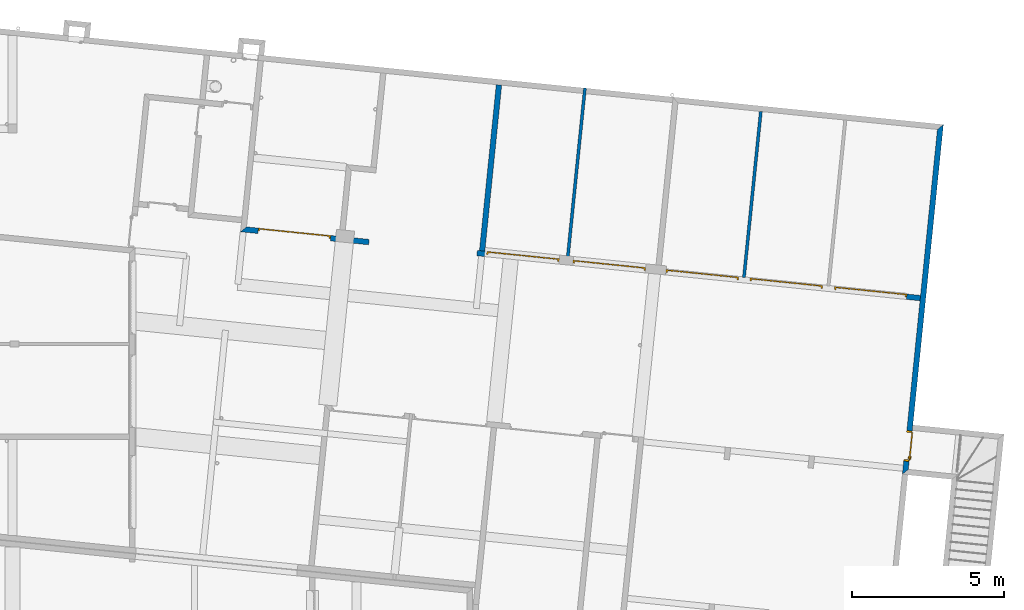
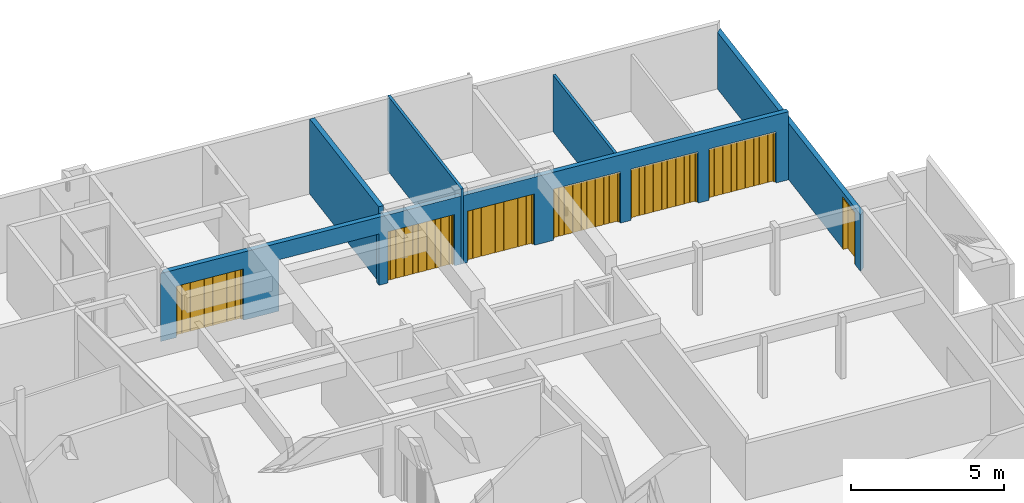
# One storey, part 18 of 41: 7 doors, 5 walls, 8 openings.
"""IFC2X3 building model written with IfcOpenShell, lengths in millimetres."""

from ifc_helpers import new_model, entity, si_unit, converted_unit, derived_unit, money_unit, direction, frame, origin_with_axes, origin_2d_with_axis, place, context, subcontext, project, spatial, polyline, rectangle, outline, extrude, faceted_brep, source, transform, mapped, material, layer, layer_set, layer_usage, type_object, element, fill, save


model = new_model("IFC2X3")

# Units and contexts
model_context = context("Model", 3, precision=0.01, world=origin_with_axes(), true_north=direction((0.0, 1.0)))
body_context = subcontext(model_context, "Body", "Model", "MODEL_VIEW")
ifc_project = project(units=[si_unit("LENGTHUNIT", "METRE", prefix="MILLI"), si_unit("AREAUNIT", "SQUARE_METRE"), si_unit("VOLUMEUNIT", "CUBIC_METRE"), converted_unit("PLANEANGLEUNIT", "DEGREE", entity("IfcPlaneAngleMeasure", 0.0174532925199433), si_unit("PLANEANGLEUNIT", "RADIAN"), dimensions=[0, 0, 0, 0, 0, 0, 0]), money_unit("USD"), converted_unit("TIMEUNIT", "Year", entity("IfcTimeMeasure", 31557600.0), si_unit("TIMEUNIT", "SECOND"), dimensions=[0, 0, 1, 0, 0, 0, 0]), si_unit("MASSUNIT", "GRAM", prefix="KILO"), si_unit("THERMODYNAMICTEMPERATUREUNIT", "DEGREE_CELSIUS"), si_unit("LUMINOUSINTENSITYUNIT", "LUMEN"), si_unit("ENERGYUNIT", "JOULE", prefix="MEGA"), derived_unit("THERMALCONDUCTANCEUNIT", [(si_unit("POWERUNIT", "WATT"), 1), (si_unit("LENGTHUNIT", "METRE"), -1), (si_unit("THERMODYNAMICTEMPERATUREUNIT", "KELVIN"), -1)]), derived_unit("SPECIFICHEATCAPACITYUNIT", [(si_unit("ENERGYUNIT", "JOULE"), 1), (si_unit("MASSUNIT", "GRAM", prefix="KILO"), -1), (si_unit("THERMODYNAMICTEMPERATUREUNIT", "KELVIN"), -1)]), derived_unit("MASSDENSITYUNIT", [(si_unit("MASSUNIT", "GRAM", prefix="KILO"), 1), (si_unit("VOLUMEUNIT", "CUBIC_METRE"), -1)])], contexts=[model_context])

# Site, building, storey
site_placement = place(None, origin_with_axes())
site = spatial("IfcSite", under=ifc_project, at=site_placement, Name="Site", CompositionType="ELEMENT")
building_placement = place(site_placement, origin_with_axes())
building = spatial("IfcBuilding", under=site, at=building_placement, Name="Bâtiment", CompositionType="ELEMENT")
storey_placement = place(building_placement, origin_with_axes())
storey = spatial("IfcBuildingStorey", under=building, at=storey_placement, Name="sousol", CompositionType="ELEMENT", Elevation=0.0)

# Walls
ifc_material_1 = material(Name="Brique 1 268964100")
ifc_layer_1 = layer(ifc_material_1, 100.0, ventilated="UNKNOWN")
ifc_layer_set_1 = layer_set([ifc_layer_1], Name="Cloison 100 gaine")
ifc_layer_usage_1 = layer_usage(ifc_layer_set_1, "AXIS2", "NEGATIVE", 0.0)
wall_type_1 = type_object("IfcWallType", Name="Cloison 100 gaine 100", PredefinedType="NOTDEFINED")
wall_1_placement = place(storey_placement, frame((2236456.168135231, -611747.5628870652, 0.0), z_axis=(0.0, 0.0, 1.0), x_axis=(0.1011032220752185, 0.9948759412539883, 0.0)))
element("IfcWallStandardCase", 1, at=wall_1_placement, inside=storey, type_object=wall_type_1, material=ifc_layer_usage_1, Name="Mur-133", context=body_context, shape_type="SweptSolid", body=[
    extrude(outline(polyline([(0.0, -100.0000000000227), (5859.999999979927, -100.0000000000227), (5859.999999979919, 0.0), (0.0, 0.0), (0.0, -100.0000000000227)])), origin_with_axes(), (0.0, 0.0, 1.0), 3000.0),
])
ifc_layer_usage_2 = layer_usage(ifc_layer_set_1, "AXIS2", "NEGATIVE", 0.0)
wall_2_placement = place(storey_placement, frame((2242291.886728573, -612159.7250478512, 0.0), z_axis=(0.0, 0.0, 1.0), x_axis=(0.1011032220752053, 0.9948759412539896, 0.0)))
element("IfcWallStandardCase", 2, at=wall_2_placement, inside=storey, type_object=wall_type_1, material=ifc_layer_usage_2, Name="Mur-133", context=body_context, shape_type="SweptSolid", body=[
    extrude(outline(polyline([(0.0, -100.0000000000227), (5499.999999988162, -100.0000000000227), (5499.999999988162, 0.0), (0.0, 0.0), (0.0, -100.0000000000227)])), origin_with_axes(), (0.0, 0.0, 1.0), 2259.999999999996),
])

# Wall, opening, door
ifc_material_2 = material(Name="Parpaing 314940890")
ifc_layer_2 = layer(ifc_material_2, 180.0, ventilated="UNKNOWN")
ifc_layer_set_2 = layer_set([ifc_layer_2], Name="Beton  18 0170347028")
ifc_layer_usage_3 = layer_usage(ifc_layer_set_2, "AXIS2", "NEGATIVE", 0.0)
wall_type_2 = type_object("IfcWallType", Name="Beton  18 0170347028 180", PredefinedType="NOTDEFINED")
wall_3_placement = place(storey_placement, frame((2247583.310815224, -618476.6702071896, 0.0), z_axis=(0.0, 0.0, 1.0), x_axis=(0.101103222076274, 0.994875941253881, 0.0)))
wall_3 = element("IfcWallStandardCase", 3, at=wall_3_placement, inside=storey, type_object=wall_type_2, material=ifc_layer_usage_3, Name="Mur-132", context=body_context, shape_type="SweptSolid", body=[
    extrude(outline(polyline([(0.03947672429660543, -180.0000000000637), (11429.59673671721, -180.0000000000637), (11249.59673671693, -1.13686837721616e-10), (-180.0000043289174, 0.0), (0.03947672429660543, -180.0000000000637)])), origin_with_axes(), (0.0, 0.0, 1.0), 2260.00000000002),
])
opening_1_placement = place(wall_3_placement, frame((765.4251590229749, 0.0, 0.0), z_axis=(0.0, 0.0, 1.0), x_axis=(1.0, 0.0, 0.0)))
opening_1 = element("IfcOpeningElement", 4, at=opening_1_placement, cuts=wall_3, Name="Por-298", context=body_context, shape_type="SweptSolid", body=[
    extrude(rectangle(XDim=1010.00001192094, YDim=2080.0, at=origin_2d_with_axis()), frame((5.960473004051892e-06, 180.0000000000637, 1040.0), z_axis=(0.0, 1.0, 0.0), x_axis=(1.0, 0.0, 0.0)), (0.0, 0.0, -1.0), 360.0),
])
door_style_1 = type_object("IfcDoorStyle", Name="Porte_1v", ConstructionType="NOTDEFINED", OperationType="NOTDEFINED", ParameterTakesPrecedence=False, Sizeable=False)
shared_shape_1 = source(origin_with_axes(), body_context, "Body", "Brep", [
    faceted_brep([(-505.0, 0.0, 0.0), (-505.0, 0.0, 2080.0), (505.0, 0.0, 2080.0), (505.0, 0.0, 0.0), (465.0, 0.0, 0.0), (464.9999999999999, 0.0, 2040.0), (-464.9999999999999, 0.0, 2040.0), (-465.0, 0.0, 0.0), (-505.0, -180.0, 0.0), (-505.0, -180.0, 2080.0), (505.0, -180.0, 2080.0), (505.0, -180.0, 0.0), (450.0, -180.0, 0.0), (450.0, -15.0, 0.0), (465.0, -15.0, 0.0), (464.9999999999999, -15.0, 2040.0), (-464.9999999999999, -15.0, 2040.0), (-465.0, -15.0, 0.0), (-450.0, -15.0, 0.0), (-450.0, -180.0, 0.0), (-450.0, -180.0, 2025.0), (450.0, -180.0, 2025.0), (450.0, -15.0, 2025.0), (-450.0, -15.0, 2025.0)], [[[0, 1, 2, 3, 4, 5, 6, 7]], [[8, 9, 1, 0]], [[9, 10, 2, 1]], [[10, 11, 3, 2]], [[3, 11, 12, 13, 14, 4]], [[5, 4, 14, 15]], [[6, 5, 15, 16]], [[7, 6, 16, 17]], [[0, 7, 17, 18, 19, 8]], [[19, 20, 21, 12, 11, 10, 9, 8]], [[22, 13, 12, 21]], [[17, 16, 15, 14, 13, 22, 23, 18]], [[18, 23, 20, 19]], [[23, 22, 21, 20]]]),
    faceted_brep([(400.0, -15.0, 900.0), (400.0, -15.0, 1100.0), (440.0, -15.0, 1100.0), (440.0, -15.0, 900.0), (400.0, -25.0, 900.0), (400.0, -25.0, 1100.0), (440.0, -25.0, 1100.0), (440.0, -25.0, 900.0)], [[[0, 1, 2, 3]], [[0, 4, 5, 1]], [[1, 5, 6, 2]], [[2, 6, 7, 3]], [[3, 7, 4, 0]], [[7, 6, 5, 4]]]),
    faceted_brep([(329.9999999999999, -25.0, 1000.0), (329.9999999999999, -25.0, 1020.0), (430.0, -25.0, 1020.0), (430.0, -25.0, 1000.0), (329.9999999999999, -45.0, 1000.0), (329.9999999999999, -45.0, 1020.0), (430.0, -45.0, 1020.0), (430.0, -45.0, 1000.0)], [[[0, 1, 2, 3]], [[0, 4, 5, 1]], [[1, 5, 6, 2]], [[2, 6, 7, 3]], [[3, 7, 4, 0]], [[7, 6, 5, 4]]]),
    faceted_brep([(400.0, 35.0, 900.0), (400.0, 35.0, 1100.0), (440.0, 35.0, 1100.0), (440.0, 35.0, 900.0), (400.0, 25.0, 900.0), (400.0, 25.0, 1100.0), (440.0, 25.0, 1100.0), (440.0, 25.0, 900.0)], [[[0, 1, 2, 3]], [[0, 4, 5, 1]], [[1, 5, 6, 2]], [[2, 6, 7, 3]], [[3, 7, 4, 0]], [[7, 6, 5, 4]]]),
    faceted_brep([(329.9999999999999, 55.00000000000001, 1000.0), (329.9999999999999, 55.00000000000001, 1020.0), (430.0, 55.00000000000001, 1020.0), (430.0, 55.00000000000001, 1000.0), (329.9999999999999, 35.0, 1000.0), (329.9999999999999, 35.0, 1020.0), (430.0, 35.0, 1020.0), (430.0, 35.0, 1000.0)], [[[0, 1, 2, 3]], [[0, 4, 5, 1]], [[1, 5, 6, 2]], [[2, 6, 7, 3]], [[3, 7, 4, 0]], [[7, 6, 5, 4]]]),
    faceted_brep([(465.0, 25.0, 0.0), (465.0, -15.0, 0.0), (-465.0, -15.0, 0.0), (-465.0, 25.0, 0.0), (465.0, 25.0, 2040.0), (465.0, -15.0, 2040.0), (-465.0, -15.0, 2040.0), (-465.0, 25.0, 2040.0)], [[[0, 1, 2, 3]], [[4, 5, 1, 0]], [[1, 5, 6, 2]], [[3, 2, 6, 7]], [[0, 3, 7, 4]], [[7, 6, 5, 4]]]),
])
door_1_placement = place(opening_1_placement, frame((465.0000000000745, -1.13686837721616e-10, 0.0), z_axis=(0.0, 0.0, 1.0), x_axis=(-1.0, 0.0, 0.0)))
door_1 = element("IfcDoor", 5, at=door_1_placement, inside=storey, type_object=door_style_1, Name="Por-298", OverallHeight=2040.0, OverallWidth=930.0, context=body_context, shape_type="MappedRepresentation", body=[
    mapped(shared_shape_1, transform((465.0000000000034, 179.99999999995, 0.0))),
])
fill(opening_1, door_1)

# Wall
ifc_layer_usage_4 = layer_usage(ifc_layer_set_2, "AXIS2", "POSITIVE", 0.0)
wall_4_placement = place(storey_placement, frame((2233780.072453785, -611475.6479477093, 0.0), z_axis=(0.0, 0.0, 1.0), x_axis=(0.1008361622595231, 0.9949030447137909, 0.0)))
element("IfcWallStandardCase", 6, at=wall_4_placement, inside=storey, type_object=wall_type_2, material=ifc_layer_usage_4, Name="Mur-133", context=body_context, shape_type="SweptSolid", body=[
    extrude(outline(polyline([(180.0000064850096, 0.0), (5680.000204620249, 0.0), (5680.048522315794, 179.99999999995), (180.0483241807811, 179.99999999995), (180.0000064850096, 0.0)])), origin_with_axes(), (0.0, 0.0, 1.0), 3000.0),
])

# Wall, openings, doors
ifc_layer_usage_5 = layer_usage(ifc_layer_set_2, "AXIS2", "NEGATIVE", 0.0)
wall_5_placement = place(storey_placement, frame((2248146.414990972, -612935.6124113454, 0.0), z_axis=(0.0, 0.0, 1.0), x_axis=(-0.9948759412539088, 0.1011032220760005, 0.0)))
wall_5 = element("IfcWallStandardCase", 7, at=wall_5_placement, inside=storey, type_object=wall_type_2, material=ifc_layer_usage_5, Name="Mur-132", context=body_context, shape_type="SweptSolid", body=[
    extrude(outline(polyline([(0.0, -180.0000000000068), (22340.71393162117, -179.9999999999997), (22520.71394197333, 0.0), (0.0, 0.0), (0.0, -180.0000000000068)])), origin_with_axes(), (0.0, 0.0, 1.0), 2719.999999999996),
])
opening_2_placement = place(wall_5_placement, frame((13172.1847592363, 0.0, 0.0), z_axis=(0.0, 0.0, 1.0), x_axis=(1.0, 0.0, 0.0)))
opening_2 = element("IfcOpeningElement", 8, at=opening_2_placement, cuts=wall_5, Name="Por-296", context=body_context, shape_type="SweptSolid", body=[
    extrude(rectangle(XDim=2399.999999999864, YDim=2050.0, at=origin_2d_with_axis()), frame((-1.13686837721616e-10, -179.9999999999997, 1025.0), z_axis=(0.0, 1.0, 0.0), x_axis=(1.0, 0.0, 0.0)), (0.0, 0.0, -1.0), 180.0),
    extrude(rectangle(XDim=2399.999999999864, YDim=2050.0, at=origin_2d_with_axis()), frame((-1.13686837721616e-10, -179.9999999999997, 1025.0), z_axis=(0.0, -1.0, 0.0), x_axis=(1.0, 0.0, 0.0)), (0.0, 0.0, -1.0), 180.0),
])
opening_3_placement = place(wall_5_placement, frame((10311.26635716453, 0.0, 0.0), z_axis=(0.0, 0.0, 1.0), x_axis=(1.0, 0.0, 0.0)))
opening_3 = element("IfcOpeningElement", 9, at=opening_3_placement, cuts=wall_5, Name="Por-296", context=body_context, shape_type="SweptSolid", body=[
    extrude(rectangle(XDim=2399.999999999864, YDim=2050.0, at=origin_2d_with_axis()), frame((0.0, -180.0000000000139, 1025.0), z_axis=(0.0, 1.0, 0.0), x_axis=(1.0, 0.0, 0.0)), (0.0, 0.0, -1.0), 180.0),
    extrude(rectangle(XDim=2399.999999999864, YDim=2050.0, at=origin_2d_with_axis()), frame((0.0, -180.0000000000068, 1025.0), z_axis=(0.0, -1.0, 0.0), x_axis=(1.0, 0.0, 0.0)), (0.0, 0.0, -1.0), 180.0),
])
opening_4_placement = place(wall_5_placement, frame((1650.701355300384, 0.0, 0.0), z_axis=(0.0, 0.0, 1.0), x_axis=(1.0, 0.0, 0.0)))
opening_4 = element("IfcOpeningElement", 10, at=opening_4_placement, cuts=wall_5, Name="Por-296", context=body_context, shape_type="SweptSolid", body=[
    extrude(rectangle(XDim=2399.999999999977, YDim=2050.0, at=origin_2d_with_axis()), frame((0.0, -180.0000000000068, 1025.0), z_axis=(0.0, 1.0, 0.0), x_axis=(1.0, 0.0, 0.0)), (0.0, 0.0, -1.0), 180.0),
    extrude(rectangle(XDim=2399.999999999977, YDim=2050.0, at=origin_2d_with_axis()), frame((0.0, -180.0000000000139, 1025.0), z_axis=(0.0, -1.0, 0.0), x_axis=(1.0, 0.0, 0.0)), (0.0, 0.0, -1.0), 180.0),
])
opening_5_placement = place(wall_5_placement, frame((4445.095088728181, 0.0, 0.0), z_axis=(0.0, 0.0, 1.0), x_axis=(1.0, 0.0, 0.0)))
opening_5 = element("IfcOpeningElement", 11, at=opening_5_placement, cuts=wall_5, Name="Por-296", context=body_context, shape_type="SweptSolid", body=[
    extrude(rectangle(XDim=2399.999999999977, YDim=2050.0, at=origin_2d_with_axis()), frame((0.0, -180.0000000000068, 1025.0), z_axis=(0.0, 1.0, 0.0), x_axis=(1.0, 0.0, 0.0)), (0.0, 0.0, -1.0), 180.0),
    extrude(rectangle(XDim=2399.999999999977, YDim=2050.0, at=origin_2d_with_axis()), frame((0.0, -180.0000000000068, 1025.0), z_axis=(0.0, -1.0, 0.0), x_axis=(1.0, 0.0, 0.0)), (0.0, 0.0, -1.0), 180.0),
])
opening_6_placement = place(wall_5_placement, frame((20746.29430240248, 0.0, 0.0), z_axis=(0.0, 0.0, 1.0), x_axis=(1.0, 0.0, 0.0)))
opening_6 = element("IfcOpeningElement", 12, at=opening_6_placement, cuts=wall_5, Name="Por-296", context=body_context, shape_type="SweptSolid", body=[
    extrude(rectangle(XDim=2399.999999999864, YDim=2050.0, at=origin_2d_with_axis()), frame((-1.13686837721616e-10, -180.0000000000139, 1025.0), z_axis=(0.0, 1.0, 0.0), x_axis=(1.0, 0.0, 0.0)), (0.0, 0.0, -1.0), 180.0),
    extrude(rectangle(XDim=2399.999999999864, YDim=2050.0, at=origin_2d_with_axis()), frame((-1.13686837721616e-10, -180.0000000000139, 1025.0), z_axis=(0.0, -1.0, 0.0), x_axis=(1.0, 0.0, 0.0)), (0.0, 0.0, -1.0), 180.0),
])
opening_7_placement = place(wall_5_placement, frame((16483.23429893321, 0.0, 0.0), z_axis=(0.0, 0.0, 1.0), x_axis=(1.0, 0.0, 0.0)))
element("IfcOpeningElement", 13, at=opening_7_placement, cuts=wall_5, Name="Por-296", context=body_context, shape_type="SweptSolid", body=[
    extrude(rectangle(XDim=3586.301945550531, YDim=2050.0, at=origin_2d_with_axis()), frame((-1.13686837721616e-10, -180.000000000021, 1025.0), z_axis=(0.0, 1.0, 0.0), x_axis=(1.0, 0.0, 0.0)), (0.0, 0.0, -1.0), 180.0),
    extrude(rectangle(XDim=3586.301945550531, YDim=2050.0, at=origin_2d_with_axis()), frame((-1.13686837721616e-10, -180.0000000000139, 1025.0), z_axis=(0.0, -1.0, 0.0), x_axis=(1.0, 0.0, 0.0)), (0.0, 0.0, -1.0), 180.0),
])
opening_8_placement = place(wall_5_placement, frame((7230.825332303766, 0.0, 0.0), z_axis=(0.0, 0.0, 1.0), x_axis=(1.0, 0.0, 0.0)))
opening_8 = element("IfcOpeningElement", 14, at=opening_8_placement, cuts=wall_5, Name="Por-296", context=body_context, shape_type="SweptSolid", body=[
    extrude(rectangle(XDim=2399.999999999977, YDim=2050.0, at=origin_2d_with_axis()), frame((0.0, -180.0000000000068, 1025.0), z_axis=(0.0, 1.0, 0.0), x_axis=(1.0, 0.0, 0.0)), (0.0, 0.0, -1.0), 180.0),
    extrude(rectangle(XDim=2399.999999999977, YDim=2050.0, at=origin_2d_with_axis()), frame((0.0, -180.0000000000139, 1025.0), z_axis=(0.0, -1.0, 0.0), x_axis=(1.0, 0.0, 0.0)), (0.0, 0.0, -1.0), 180.0),
])
door_style_2 = type_object("IfcDoorStyle", Name="P_garage 1", ConstructionType="NOTDEFINED", OperationType="NOTDEFINED", ParameterTakesPrecedence=False, Sizeable=False)
shared_shape_2 = source(origin_with_axes(), body_context, "Body", "Brep", [
    faceted_brep([(-1200.0, 0.0, 0.0), (-1150.0, 0.0, 0.0), (-1150.0, -100.0, 0.0), (-1200.0, -100.0, 0.0), (-1200.0, 0.0, 2050.0), (1200.0, 0.0, 2050.0), (1200.0, 0.0, 0.0), (1150.0, 0.0, 0.0), (1150.0, 0.0, 2000.0), (-1150.0, 0.0, 2000.0), (-1150.0, -100.0, 2000.0), (1150.0, -100.0, 2000.0), (1150.0, -100.0, 0.0), (1200.0, -100.0, 0.0), (1200.0, -100.0, 2050.0), (-1200.0, -100.0, 2050.0)], [[[0, 1, 2, 3]], [[0, 4, 5, 6, 7, 8, 9, 1]], [[1, 9, 10, 2]], [[3, 2, 10, 11, 12, 13, 14, 15]], [[4, 0, 3, 15]], [[5, 4, 15, 14]], [[6, 5, 14, 13]], [[7, 6, 13, 12]], [[8, 7, 12, 11]], [[9, 8, 11, 10]]]),
    faceted_brep([(-1069.130434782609, -40.0, 0.0), (-1069.130434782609, -26.66666666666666, 0.0), (-1069.130434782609, -26.66666666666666, 2000.0), (-1069.130434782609, -40.0, 2000.0), (-1150.0, -40.0, 0.0), (-1150.0, -26.66666666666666, 0.0), (-1150.0, -26.66666666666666, 2000.0), (-1150.0, -40.0, 2000.0)], [[[0, 1, 2, 3]], [[4, 5, 1, 0]], [[1, 5, 6, 2]], [[3, 2, 6, 7]], [[0, 3, 7, 4]], [[7, 6, 5, 4]]]),
    faceted_brep([(-968.2608695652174, -40.0, 0.0), (-968.2608695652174, -26.66666666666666, 0.0), (-968.2608695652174, -26.66666666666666, 2000.0), (-968.2608695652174, -40.0, 2000.0), (-1049.130434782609, -40.0, 0.0), (-1049.130434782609, -26.66666666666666, 0.0), (-1049.130434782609, -26.66666666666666, 2000.0), (-1049.130434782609, -40.0, 2000.0)], [[[0, 1, 2, 3]], [[4, 5, 1, 0]], [[1, 5, 6, 2]], [[3, 2, 6, 7]], [[0, 3, 7, 4]], [[7, 6, 5, 4]]]),
    faceted_brep([(-867.3913043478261, -40.0, 0.0), (-867.3913043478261, -26.66666666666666, 0.0), (-867.3913043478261, -26.66666666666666, 2000.0), (-867.3913043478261, -40.0, 2000.0), (-948.2608695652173, -40.0, 0.0), (-948.2608695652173, -26.66666666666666, 0.0), (-948.2608695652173, -26.66666666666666, 2000.0), (-948.2608695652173, -40.0, 2000.0)], [[[0, 1, 2, 3]], [[4, 5, 1, 0]], [[1, 5, 6, 2]], [[3, 2, 6, 7]], [[0, 3, 7, 4]], [[7, 6, 5, 4]]]),
    faceted_brep([(-766.5217391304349, -40.0, 0.0), (-766.5217391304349, -26.66666666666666, 0.0), (-766.5217391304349, -26.66666666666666, 2000.0), (-766.5217391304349, -40.0, 2000.0), (-847.391304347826, -40.0, 0.0), (-847.391304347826, -26.66666666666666, 0.0), (-847.391304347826, -26.66666666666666, 2000.0), (-847.391304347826, -40.0, 2000.0)], [[[0, 1, 2, 3]], [[4, 5, 1, 0]], [[1, 5, 6, 2]], [[3, 2, 6, 7]], [[0, 3, 7, 4]], [[7, 6, 5, 4]]]),
    faceted_brep([(-665.6521739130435, -40.0, 0.0), (-665.6521739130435, -26.66666666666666, 0.0), (-665.6521739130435, -26.66666666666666, 2000.0), (-665.6521739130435, -40.0, 2000.0), (-746.5217391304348, -40.0, 0.0), (-746.5217391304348, -26.66666666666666, 0.0), (-746.5217391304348, -26.66666666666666, 2000.0), (-746.5217391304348, -40.0, 2000.0)], [[[0, 1, 2, 3]], [[4, 5, 1, 0]], [[1, 5, 6, 2]], [[3, 2, 6, 7]], [[0, 3, 7, 4]], [[7, 6, 5, 4]]]),
    faceted_brep([(-564.7826086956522, -40.0, 0.0), (-564.7826086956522, -26.66666666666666, 0.0), (-564.7826086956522, -26.66666666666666, 2000.0), (-564.7826086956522, -40.0, 2000.0), (-645.6521739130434, -40.0, 0.0), (-645.6521739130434, -26.66666666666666, 0.0), (-645.6521739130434, -26.66666666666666, 2000.0), (-645.6521739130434, -40.0, 2000.0)], [[[0, 1, 2, 3]], [[4, 5, 1, 0]], [[1, 5, 6, 2]], [[3, 2, 6, 7]], [[0, 3, 7, 4]], [[7, 6, 5, 4]]]),
    faceted_brep([(-463.9130434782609, -40.0, 0.0), (-463.9130434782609, -26.66666666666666, 0.0), (-463.9130434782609, -26.66666666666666, 2000.0), (-463.9130434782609, -40.0, 2000.0), (-544.7826086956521, -40.0, 0.0), (-544.7826086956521, -26.66666666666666, 0.0), (-544.7826086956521, -26.66666666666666, 2000.0), (-544.7826086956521, -40.0, 2000.0)], [[[0, 1, 2, 3]], [[4, 5, 1, 0]], [[1, 5, 6, 2]], [[3, 2, 6, 7]], [[0, 3, 7, 4]], [[7, 6, 5, 4]]]),
    faceted_brep([(-363.0434782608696, -40.0, 0.0), (-363.0434782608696, -26.66666666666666, 0.0), (-363.0434782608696, -26.66666666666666, 2000.0), (-363.0434782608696, -40.0, 2000.0), (-443.9130434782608, -40.0, 0.0), (-443.9130434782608, -26.66666666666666, 0.0), (-443.9130434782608, -26.66666666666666, 2000.0), (-443.9130434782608, -40.0, 2000.0)], [[[0, 1, 2, 3]], [[4, 5, 1, 0]], [[1, 5, 6, 2]], [[3, 2, 6, 7]], [[0, 3, 7, 4]], [[7, 6, 5, 4]]]),
    faceted_brep([(-262.1739130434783, -40.0, 0.0), (-262.1739130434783, -26.66666666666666, 0.0), (-262.1739130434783, -26.66666666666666, 2000.0), (-262.1739130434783, -40.0, 2000.0), (-343.0434782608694, -40.0, 0.0), (-343.0434782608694, -26.66666666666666, 0.0), (-343.0434782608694, -26.66666666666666, 2000.0), (-343.0434782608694, -40.0, 2000.0)], [[[0, 1, 2, 3]], [[4, 5, 1, 0]], [[1, 5, 6, 2]], [[3, 2, 6, 7]], [[0, 3, 7, 4]], [[7, 6, 5, 4]]]),
    faceted_brep([(-161.3043478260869, -40.0, 0.0), (-161.3043478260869, -26.66666666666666, 0.0), (-161.3043478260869, -26.66666666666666, 2000.0), (-161.3043478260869, -40.0, 2000.0), (-242.1739130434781, -40.0, 0.0), (-242.1739130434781, -26.66666666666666, 0.0), (-242.1739130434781, -26.66666666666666, 2000.0), (-242.1739130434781, -40.0, 2000.0)], [[[0, 1, 2, 3]], [[4, 5, 1, 0]], [[1, 5, 6, 2]], [[3, 2, 6, 7]], [[0, 3, 7, 4]], [[7, 6, 5, 4]]]),
    faceted_brep([(-60.43478260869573, -40.0, 0.0), (-60.43478260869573, -26.66666666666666, 0.0), (-60.43478260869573, -26.66666666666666, 2000.0), (-60.43478260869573, -40.0, 2000.0), (-141.3043478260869, -40.0, 0.0), (-141.3043478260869, -26.66666666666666, 0.0), (-141.3043478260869, -26.66666666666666, 2000.0), (-141.3043478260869, -40.0, 2000.0)], [[[0, 1, 2, 3]], [[4, 5, 1, 0]], [[1, 5, 6, 2]], [[3, 2, 6, 7]], [[0, 3, 7, 4]], [[7, 6, 5, 4]]]),
    faceted_brep([(40.43478260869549, -40.0, 0.0), (40.43478260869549, -26.66666666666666, 0.0), (40.43478260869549, -26.66666666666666, 2000.0), (40.43478260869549, -40.0, 2000.0), (-40.43478260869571, -40.0, 0.0), (-40.43478260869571, -26.66666666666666, 0.0), (-40.43478260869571, -26.66666666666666, 2000.0), (-40.43478260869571, -40.0, 2000.0)], [[[0, 1, 2, 3]], [[4, 5, 1, 0]], [[1, 5, 6, 2]], [[3, 2, 6, 7]], [[0, 3, 7, 4]], [[7, 6, 5, 4]]]),
    faceted_brep([(141.3043478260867, -40.0, 0.0), (141.3043478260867, -26.66666666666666, 0.0), (141.3043478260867, -26.66666666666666, 2000.0), (141.3043478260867, -40.0, 2000.0), (60.4347826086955, -40.0, 0.0), (60.4347826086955, -26.66666666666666, 0.0), (60.4347826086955, -26.66666666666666, 2000.0), (60.4347826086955, -40.0, 2000.0)], [[[0, 1, 2, 3]], [[4, 5, 1, 0]], [[1, 5, 6, 2]], [[3, 2, 6, 7]], [[0, 3, 7, 4]], [[7, 6, 5, 4]]]),
    faceted_brep([(242.1739130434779, -40.0, 0.0), (242.1739130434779, -26.66666666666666, 0.0), (242.1739130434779, -26.66666666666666, 2000.0), (242.1739130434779, -40.0, 2000.0), (161.3043478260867, -40.0, 0.0), (161.3043478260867, -26.66666666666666, 0.0), (161.3043478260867, -26.66666666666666, 2000.0), (161.3043478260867, -40.0, 2000.0)], [[[0, 1, 2, 3]], [[4, 5, 1, 0]], [[1, 5, 6, 2]], [[3, 2, 6, 7]], [[0, 3, 7, 4]], [[7, 6, 5, 4]]]),
    faceted_brep([(343.0434782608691, -40.0, 0.0), (343.0434782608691, -26.66666666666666, 0.0), (343.0434782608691, -26.66666666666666, 2000.0), (343.0434782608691, -40.0, 2000.0), (262.1739130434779, -40.0, 0.0), (262.1739130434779, -26.66666666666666, 0.0), (262.1739130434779, -26.66666666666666, 2000.0), (262.1739130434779, -40.0, 2000.0)], [[[0, 1, 2, 3]], [[4, 5, 1, 0]], [[1, 5, 6, 2]], [[3, 2, 6, 7]], [[0, 3, 7, 4]], [[7, 6, 5, 4]]]),
    faceted_brep([(443.9130434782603, -40.0, 0.0), (443.9130434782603, -26.66666666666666, 0.0), (443.9130434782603, -26.66666666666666, 2000.0), (443.9130434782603, -40.0, 2000.0), (363.0434782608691, -40.0, 0.0), (363.0434782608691, -26.66666666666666, 0.0), (363.0434782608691, -26.66666666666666, 2000.0), (363.0434782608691, -40.0, 2000.0)], [[[0, 1, 2, 3]], [[4, 5, 1, 0]], [[1, 5, 6, 2]], [[3, 2, 6, 7]], [[0, 3, 7, 4]], [[7, 6, 5, 4]]]),
    faceted_brep([(544.7826086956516, -40.0, 0.0), (544.7826086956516, -26.66666666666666, 0.0), (544.7826086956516, -26.66666666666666, 2000.0), (544.7826086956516, -40.0, 2000.0), (463.9130434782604, -40.0, 0.0), (463.9130434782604, -26.66666666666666, 0.0), (463.9130434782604, -26.66666666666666, 2000.0), (463.9130434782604, -40.0, 2000.0)], [[[0, 1, 2, 3]], [[4, 5, 1, 0]], [[1, 5, 6, 2]], [[3, 2, 6, 7]], [[0, 3, 7, 4]], [[7, 6, 5, 4]]]),
    faceted_brep([(645.6521739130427, -40.0, 0.0), (645.6521739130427, -26.66666666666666, 0.0), (645.6521739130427, -26.66666666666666, 2000.0), (645.6521739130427, -40.0, 2000.0), (564.7826086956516, -40.0, 0.0), (564.7826086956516, -26.66666666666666, 0.0), (564.7826086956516, -26.66666666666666, 2000.0), (564.7826086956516, -40.0, 2000.0)], [[[0, 1, 2, 3]], [[4, 5, 1, 0]], [[1, 5, 6, 2]], [[3, 2, 6, 7]], [[0, 3, 7, 4]], [[7, 6, 5, 4]]]),
    faceted_brep([(746.521739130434, -40.0, 0.0), (746.521739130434, -26.66666666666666, 0.0), (746.521739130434, -26.66666666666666, 2000.0), (746.521739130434, -40.0, 2000.0), (665.6521739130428, -40.0, 0.0), (665.6521739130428, -26.66666666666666, 0.0), (665.6521739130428, -26.66666666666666, 2000.0), (665.6521739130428, -40.0, 2000.0)], [[[0, 1, 2, 3]], [[4, 5, 1, 0]], [[1, 5, 6, 2]], [[3, 2, 6, 7]], [[0, 3, 7, 4]], [[7, 6, 5, 4]]]),
    faceted_brep([(847.3913043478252, -40.0, 0.0), (847.3913043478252, -26.66666666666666, 0.0), (847.3913043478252, -26.66666666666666, 2000.0), (847.3913043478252, -40.0, 2000.0), (766.521739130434, -40.0, 0.0), (766.521739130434, -26.66666666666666, 0.0), (766.521739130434, -26.66666666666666, 2000.0), (766.521739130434, -40.0, 2000.0)], [[[0, 1, 2, 3]], [[4, 5, 1, 0]], [[1, 5, 6, 2]], [[3, 2, 6, 7]], [[0, 3, 7, 4]], [[7, 6, 5, 4]]]),
    faceted_brep([(948.2608695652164, -40.0, 0.0), (948.2608695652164, -26.66666666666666, 0.0), (948.2608695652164, -26.66666666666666, 2000.0), (948.2608695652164, -40.0, 2000.0), (867.3913043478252, -40.0, 0.0), (867.3913043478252, -26.66666666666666, 0.0), (867.3913043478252, -26.66666666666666, 2000.0), (867.3913043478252, -40.0, 2000.0)], [[[0, 1, 2, 3]], [[4, 5, 1, 0]], [[1, 5, 6, 2]], [[3, 2, 6, 7]], [[0, 3, 7, 4]], [[7, 6, 5, 4]]]),
    faceted_brep([(1049.130434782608, -40.0, 0.0), (1049.130434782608, -26.66666666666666, 0.0), (1049.130434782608, -26.66666666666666, 2000.0), (1049.130434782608, -40.0, 2000.0), (968.2608695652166, -40.0, 0.0), (968.2608695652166, -26.66666666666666, 0.0), (968.2608695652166, -26.66666666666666, 2000.0), (968.2608695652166, -40.0, 2000.0)], [[[0, 1, 2, 3]], [[4, 5, 1, 0]], [[1, 5, 6, 2]], [[3, 2, 6, 7]], [[0, 3, 7, 4]], [[7, 6, 5, 4]]]),
    faceted_brep([(1149.999999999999, -40.0, 0.0), (1149.999999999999, -26.66666666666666, 0.0), (1149.999999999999, -26.66666666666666, 2000.0), (1149.999999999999, -40.0, 2000.0), (1069.130434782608, -40.0, 0.0), (1069.130434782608, -26.66666666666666, 0.0), (1069.130434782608, -26.66666666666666, 2000.0), (1069.130434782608, -40.0, 2000.0)], [[[0, 1, 2, 3]], [[4, 5, 1, 0]], [[1, 5, 6, 2]], [[3, 2, 6, 7]], [[0, 3, 7, 4]], [[7, 6, 5, 4]]]),
    faceted_brep([(-1150.0, -26.66666666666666, 0.0), (-1150.0, 0.0, 0.0), (1150.0, 0.0, 0.0), (1150.0, -26.66666666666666, 0.0), (-1150.0, -26.66666666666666, 2000.0), (-1150.0, 0.0, 2000.0), (1150.0, 0.0, 2000.0), (1150.0, -26.66666666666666, 2000.0)], [[[0, 1, 2, 3]], [[4, 5, 1, 0]], [[1, 5, 6, 2]], [[3, 2, 6, 7]], [[0, 3, 7, 4]], [[7, 6, 5, 4]]]),
])
door_2_placement = place(opening_8_placement, frame((1199.999999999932, 0.0, 0.0), z_axis=(0.0, 0.0, 1.0), x_axis=(-1.0, 0.0, 0.0)))
door_2 = element("IfcDoor", 15, at=door_2_placement, inside=storey, type_object=door_style_2, Name="Por-296", OverallHeight=2050.0, OverallWidth=2400.0, context=body_context, shape_type="MappedRepresentation", body=[
    mapped(shared_shape_2, transform((1199.999999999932, 179.9999999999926, 0.0))),
])
fill(opening_8, door_2)
door_3_placement = place(opening_5_placement, frame((1200.000000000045, 0.0, 0.0), z_axis=(0.0, 0.0, 1.0), x_axis=(-1.0, 0.0, 0.0)))
door_3 = element("IfcDoor", 16, at=door_3_placement, inside=storey, type_object=door_style_2, Name="Por-296", OverallHeight=2050.0, OverallWidth=2400.0, context=body_context, shape_type="MappedRepresentation", body=[
    mapped(shared_shape_2, transform((1199.999999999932, 179.9999999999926, 0.0))),
])
fill(opening_5, door_3)
door_4_placement = place(opening_3_placement, frame((1200.000000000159, 0.0, 0.0), z_axis=(0.0, 0.0, 1.0), x_axis=(-1.0, 0.0, 0.0)))
door_4 = element("IfcDoor", 17, at=door_4_placement, inside=storey, type_object=door_style_2, Name="Por-296", OverallHeight=2050.0, OverallWidth=2400.0, context=body_context, shape_type="MappedRepresentation", body=[
    mapped(shared_shape_2, transform((1199.999999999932, 179.9999999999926, 0.0))),
])
fill(opening_3, door_4)
door_5_placement = place(opening_4_placement, frame((1200.000000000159, 0.0, 0.0), z_axis=(0.0, 0.0, 1.0), x_axis=(-1.0, 0.0, 0.0)))
door_5 = element("IfcDoor", 18, at=door_5_placement, inside=storey, type_object=door_style_2, Name="Por-296", OverallHeight=2050.0, OverallWidth=2400.0, context=body_context, shape_type="MappedRepresentation", body=[
    mapped(shared_shape_2, transform((1199.999999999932, 179.9999999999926, 0.0))),
])
fill(opening_4, door_5)
door_6_placement = place(opening_6_placement, frame((1199.999999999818, 0.0, 0.0), z_axis=(0.0, 0.0, 1.0), x_axis=(-1.0, 0.0, 0.0)))
door_6 = element("IfcDoor", 19, at=door_6_placement, inside=storey, type_object=door_style_2, Name="Por-296", OverallHeight=2050.0, OverallWidth=2400.0, context=body_context, shape_type="MappedRepresentation", body=[
    mapped(shared_shape_2, transform((1200.000000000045, 179.9999999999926, 0.0))),
])
fill(opening_6, door_6)
door_7_placement = place(opening_2_placement, frame((1199.999999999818, -1.06581410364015e-10, 0.0), z_axis=(0.0, 0.0, 1.0), x_axis=(-1.0, 0.0, 0.0)))
door_7 = element("IfcDoor", 20, at=door_7_placement, inside=storey, type_object=door_style_2, Name="Por-296", OverallHeight=2050.0, OverallWidth=2400.0, context=body_context, shape_type="MappedRepresentation", body=[
    mapped(shared_shape_2, transform((1200.000000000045, 179.9999999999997, 0.0))),
])
fill(opening_2, door_7)

save(model, "model.ifc")
